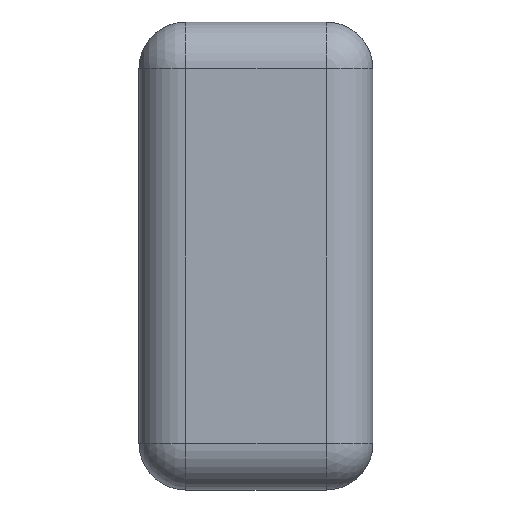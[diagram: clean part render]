
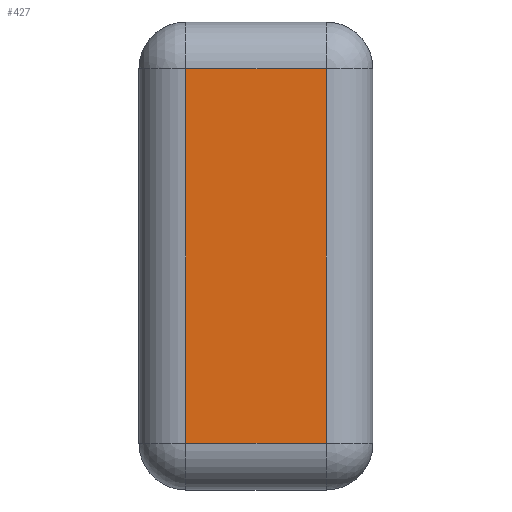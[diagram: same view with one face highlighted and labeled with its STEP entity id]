
A CAD part, left-side view. The second image highlights one B-rep face of the part: STEP entity #427.
In plain terms, the highlighted planar face has unit normal (-1, 0, 0).
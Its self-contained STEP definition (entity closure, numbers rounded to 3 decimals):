
#70 = EDGE_CURVE ( 'NONE', #180, #449, #592, .T. ) ;
#79 = LINE ( 'NONE', #90, #182 ) ;
#90 = CARTESIAN_POINT ( 'NONE',  ( -29., 1., 0. ) ) ;
#104 = CARTESIAN_POINT ( 'NONE',  ( -29., 1., -9. ) ) ;
#124 = CARTESIAN_POINT ( 'NONE',  ( -29., 4., -1. ) ) ;
#133 = AXIS2_PLACEMENT_3D ( 'NONE', #299, #700, #782 ) ;
#162 = ORIENTED_EDGE ( 'NONE', *, *, #706, .T. ) ;
#178 = ORIENTED_EDGE ( 'NONE', *, *, #70, .T. ) ;
#180 = VERTEX_POINT ( 'NONE', #124 ) ;
#182 = VECTOR ( 'NONE', #542, 1000. ) ;
#299 = CARTESIAN_POINT ( 'NONE',  ( -29., 5., 0. ) ) ;
#312 = FACE_OUTER_BOUND ( 'NONE', #599, .T. ) ;
#316 = PLANE ( 'NONE',  #133 ) ;
#330 = VECTOR ( 'NONE', #469, 1000. ) ;
#371 = VECTOR ( 'NONE', #610, 1000. ) ;
#375 = ORIENTED_EDGE ( 'NONE', *, *, #594, .T. ) ;
#410 = LINE ( 'NONE', #618, #371 ) ;
#427 = ADVANCED_FACE ( 'NONE', ( #312 ), #316, .F. ) ;
#449 = VERTEX_POINT ( 'NONE', #632 ) ;
#469 = DIRECTION ( 'NONE',  ( 0., 0., -1. ) ) ;
#471 = VECTOR ( 'NONE', #729, 1000. ) ;
#527 = ORIENTED_EDGE ( 'NONE', *, *, #651, .T. ) ;
#533 = LINE ( 'NONE', #732, #471 ) ;
#542 = DIRECTION ( 'NONE',  ( 0., 0., 1. ) ) ;
#570 = VERTEX_POINT ( 'NONE', #602 ) ;
#592 = LINE ( 'NONE', #658, #330 ) ;
#594 = EDGE_CURVE ( 'NONE', #570, #180, #533, .T. ) ;
#599 = EDGE_LOOP ( 'NONE', ( #178, #527, #162, #375 ) ) ;
#602 = CARTESIAN_POINT ( 'NONE',  ( -29., 1., -1. ) ) ;
#610 = DIRECTION ( 'NONE',  ( 0., -1., 0. ) ) ;
#618 = CARTESIAN_POINT ( 'NONE',  ( -29., 5., -9. ) ) ;
#632 = CARTESIAN_POINT ( 'NONE',  ( -29., 4., -9. ) ) ;
#651 = EDGE_CURVE ( 'NONE', #449, #808, #410, .T. ) ;
#658 = CARTESIAN_POINT ( 'NONE',  ( -29., 4., -10. ) ) ;
#700 = DIRECTION ( 'NONE',  ( 1., 0., 0. ) ) ;
#706 = EDGE_CURVE ( 'NONE', #808, #570, #79, .T. ) ;
#729 = DIRECTION ( 'NONE',  ( 0., 1., 0. ) ) ;
#732 = CARTESIAN_POINT ( 'NONE',  ( -29., 5., -1. ) ) ;
#782 = DIRECTION ( 'NONE',  ( 0., 0., -1. ) ) ;
#808 = VERTEX_POINT ( 'NONE', #104 ) ;
